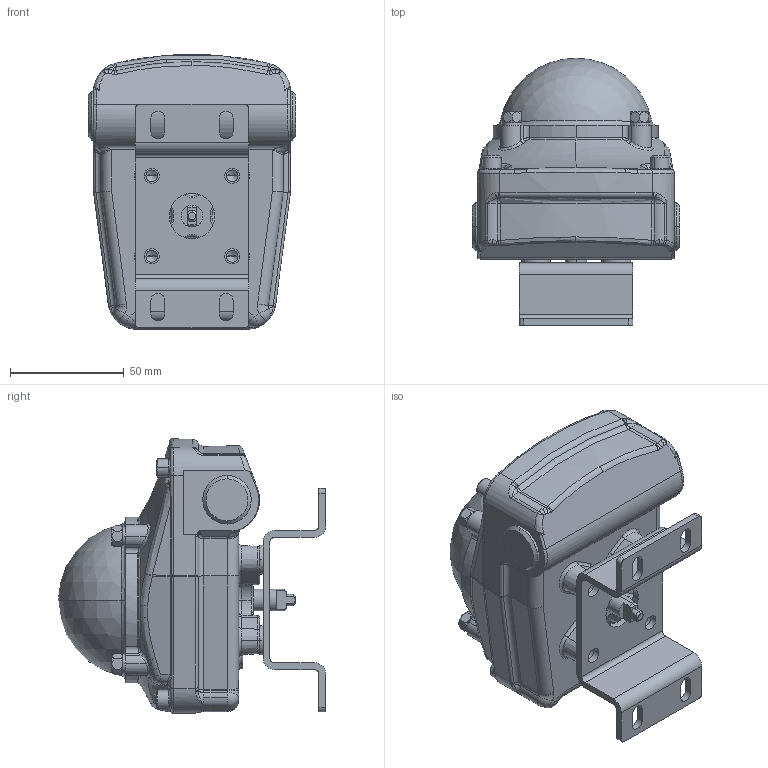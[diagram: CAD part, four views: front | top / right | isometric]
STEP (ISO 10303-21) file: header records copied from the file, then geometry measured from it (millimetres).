
FILE_DESCRIPTION (( 'STEP AP214' ), '1' );
FILE_NAME ('S5A_with_SinglePieceBracket.STEP', '2018-10-12T12:57:01', ( '' ), ( '' ), 'SwSTEP 2.0', 'SolidWorks 2018', '' );
FILE_SCHEMA (( 'AUTOMOTIVE_DESIGN' ));
Length unit declared in the file: millimetre
Products named in the file (3): S5A_with_SinglePieceBracket; S5A_8_Simple; Single Piece 
Assembly tree (2 placements, depth 2):
  S5A_with_SinglePieceBracket
    S5A_8_Simple
    Single Piece 
Bounding box: 91.06 x 117.38 x 120.51 mm (x, y, z)
Volume: 510573.3 mm3; surface area: 56612.3 mm2
Topology: 2 solids, 2 shells, 733 faces, 1794 edges, 1058 vertices
Faces by surface type: cylinder 202, bspline 169, plane 144, cone 103, torus 99, sphere 16
Entity records: 35537 total; most frequent: CARTESIAN_POINT 12110, ORIENTED_EDGE 3540, DIRECTION 3155, EDGE_CURVE 1770, AXIS2_PLACEMENT_3D 1338, VERTEX_POINT 1058, CIRCLE 769, EDGE_LOOP 768
